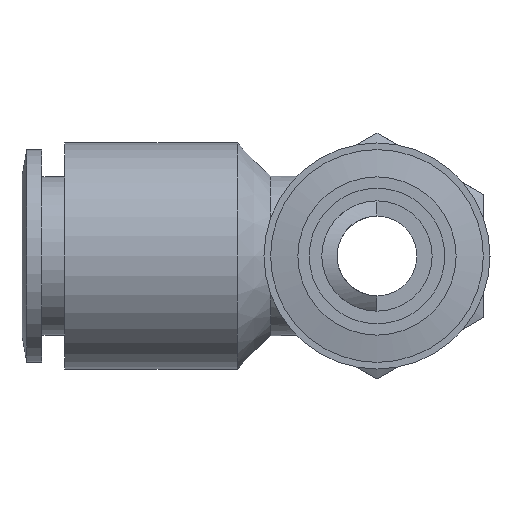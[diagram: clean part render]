
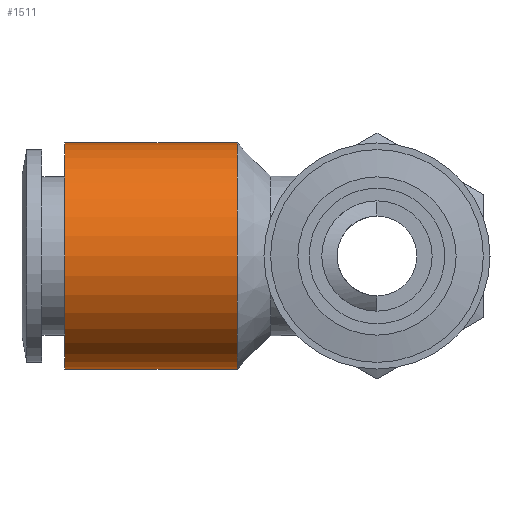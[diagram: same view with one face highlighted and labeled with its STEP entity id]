
A CAD part, left-side view. The second image highlights one B-rep face of the part: STEP entity #1511.
In plain terms, the highlighted cylindrical face has radius 8.5 mm (diameter 17 mm), a full revolution.
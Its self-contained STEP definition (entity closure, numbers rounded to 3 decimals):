
#1477=CARTESIAN_POINT('',(-8.5,10.5,0.0));
#1478=VERTEX_POINT('',#1477);
#1479=CARTESIAN_POINT('',(0.0,10.5,0.0));
#1480=DIRECTION('',(0.0,1.0,0.0));
#1481=DIRECTION('',(-1.0,0.0,0.0));
#1482=AXIS2_PLACEMENT_3D('',#1479,#1480,#1481);
#1483=CIRCLE('',#1482,8.5);
#1484=EDGE_CURVE('',#1478,#1478,#1483,.T.);
#1492=CARTESIAN_POINT('',(0.0,17.0,0.0));
#1493=DIRECTION('',(0.0,1.0,0.0));
#1494=DIRECTION('',(-1.0,0.0,0.0));
#1495=AXIS2_PLACEMENT_3D('',#1492,#1493,#1494);
#1496=CYLINDRICAL_SURFACE('',#1495,8.5);
#1497=CARTESIAN_POINT('',(-8.5,23.5,0.0));
#1498=VERTEX_POINT('',#1497);
#1499=CARTESIAN_POINT('',(0.0,23.5,0.0));
#1500=DIRECTION('',(0.0,1.0,0.0));
#1501=DIRECTION('',(-1.0,0.0,0.0));
#1502=AXIS2_PLACEMENT_3D('',#1499,#1500,#1501);
#1503=CIRCLE('',#1502,8.5);
#1504=EDGE_CURVE('',#1498,#1498,#1503,.T.);
#1505=ORIENTED_EDGE('',*,*,#1504,.F.);
#1506=EDGE_LOOP('',(#1505));
#1507=FACE_OUTER_BOUND('',#1506,.T.);
#1508=ORIENTED_EDGE('',*,*,#1484,.T.);
#1509=EDGE_LOOP('',(#1508));
#1510=FACE_BOUND('',#1509,.T.);
#1511=ADVANCED_FACE('',(#1507,#1510),#1496,.T.);
